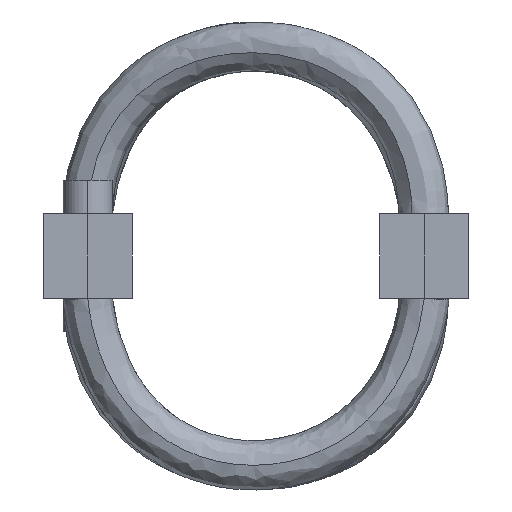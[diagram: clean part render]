
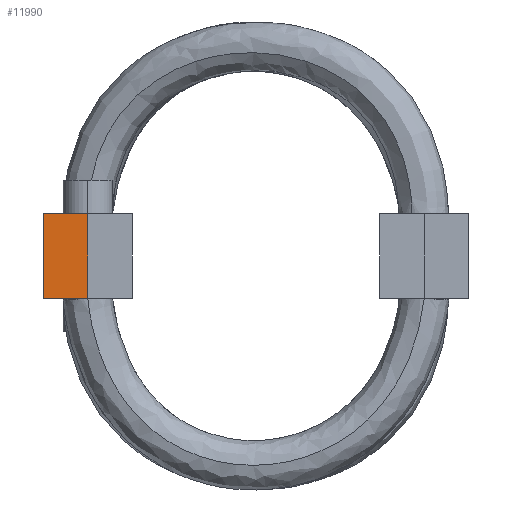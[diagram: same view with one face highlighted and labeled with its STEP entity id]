
A CAD part, left-side view. The second image highlights one B-rep face of the part: STEP entity #11990.
In plain terms, the highlighted planar face has unit normal (-1, 0, 0).
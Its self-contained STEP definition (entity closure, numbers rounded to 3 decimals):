
#933 = LINE ( 'NONE', #34942, #30909 ) ;
#2302 = EDGE_LOOP ( 'NONE', ( #23429, #19275, #3008, #12416 ) ) ;
#2604 = LINE ( 'NONE', #4813, #18003 ) ;
#2884 = CARTESIAN_POINT ( 'NONE',  ( -184.15, 85.5, 0. ) ) ;
#3008 = ORIENTED_EDGE ( 'NONE', *, *, #35987, .F. ) ;
#4153 = LINE ( 'NONE', #32123, #19587 ) ;
#4813 = CARTESIAN_POINT ( 'NONE',  ( -184.15, 95.5, -19.05 ) ) ;
#4855 = DIRECTION ( 'NONE',  ( 0., 0., 1. ) ) ;
#8678 = PLANE ( 'NONE',  #10503 ) ;
#8873 = DIRECTION ( 'NONE',  ( 0., 0., -1. ) ) ;
#10503 = AXIS2_PLACEMENT_3D ( 'NONE', #2884, #29018, #11616 ) ;
#10681 = CARTESIAN_POINT ( 'NONE',  ( -184.15, 95.5, -19.05 ) ) ;
#11545 = CARTESIAN_POINT ( 'NONE',  ( -184.15, 75.5, 19.05 ) ) ;
#11616 = DIRECTION ( 'NONE',  ( 0., 0., 1. ) ) ;
#11990 = ADVANCED_FACE ( 'NONE', ( #36324 ), #8678, .T. ) ;
#12416 = ORIENTED_EDGE ( 'NONE', *, *, #16940, .F. ) ;
#12512 = CARTESIAN_POINT ( 'NONE',  ( -184.15, 75.5, -19.05 ) ) ;
#12712 = CARTESIAN_POINT ( 'NONE',  ( -184.15, 95.5, -19.05 ) ) ;
#13089 = EDGE_CURVE ( 'NONE', #18736, #34755, #933, .T. ) ;
#14547 = VERTEX_POINT ( 'NONE', #12712 ) ;
#16940 = EDGE_CURVE ( 'NONE', #34755, #25256, #4153, .T. ) ;
#18003 = VECTOR ( 'NONE', #22193, 1000. ) ;
#18736 = VERTEX_POINT ( 'NONE', #29267 ) ;
#19275 = ORIENTED_EDGE ( 'NONE', *, *, #21720, .F. ) ;
#19587 = VECTOR ( 'NONE', #8873, 1000. ) ;
#21720 = EDGE_CURVE ( 'NONE', #14547, #18736, #31658, .T. ) ;
#22193 = DIRECTION ( 'NONE',  ( 0., 1., 0. ) ) ;
#23037 = VECTOR ( 'NONE', #4855, 1000. ) ;
#23429 = ORIENTED_EDGE ( 'NONE', *, *, #13089, .F. ) ;
#25256 = VERTEX_POINT ( 'NONE', #12512 ) ;
#26366 = DIRECTION ( 'NONE',  ( 0., -1., 0. ) ) ;
#29018 = DIRECTION ( 'NONE',  ( -1., 0., 0. ) ) ;
#29267 = CARTESIAN_POINT ( 'NONE',  ( -184.15, 95.5, 19.05 ) ) ;
#30909 = VECTOR ( 'NONE', #26366, 1000. ) ;
#31658 = LINE ( 'NONE', #10681, #23037 ) ;
#32123 = CARTESIAN_POINT ( 'NONE',  ( -184.15, 75.5, -19.05 ) ) ;
#34755 = VERTEX_POINT ( 'NONE', #11545 ) ;
#34942 = CARTESIAN_POINT ( 'NONE',  ( -184.15, 95.5, 19.05 ) ) ;
#35987 = EDGE_CURVE ( 'NONE', #25256, #14547, #2604, .T. ) ;
#36324 = FACE_OUTER_BOUND ( 'NONE', #2302, .T. ) ;
